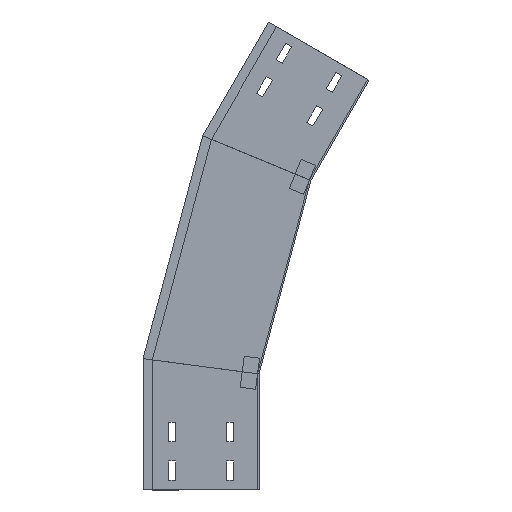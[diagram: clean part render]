
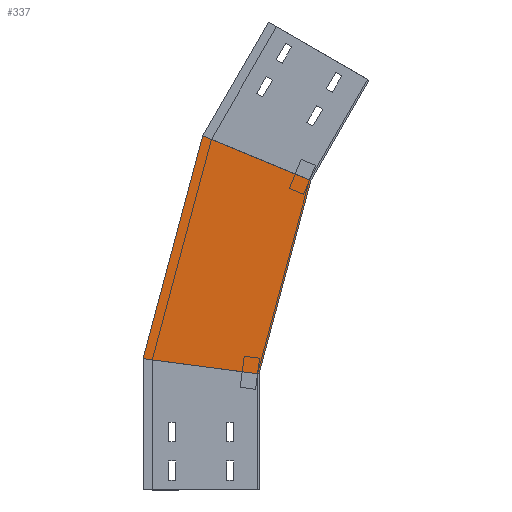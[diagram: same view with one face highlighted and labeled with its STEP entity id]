
A CAD part, left-side view. The second image highlights one B-rep face of the part: STEP entity #337.
In plain terms, the highlighted planar face has unit normal (-1, 0, 0) as drawn and (1, 0, 0) by its records, which use the part's own axes.
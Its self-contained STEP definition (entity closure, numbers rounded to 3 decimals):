
#45 = VERTEX_POINT ( 'NONE', #1856 ) ;
#93 = EDGE_CURVE ( 'NONE', #666, #1152, #112, .T. ) ;
#112 = LINE ( 'NONE', #1356, #185 ) ;
#129 = ORIENTED_EDGE ( 'NONE', *, *, #1824, .F. ) ;
#132 = CARTESIAN_POINT ( 'NONE',  ( 0., 5.648, 128.921 ) ) ;
#171 = ORIENTED_EDGE ( 'NONE', *, *, #93, .T. ) ;
#185 = VECTOR ( 'NONE', #268, 1000. ) ;
#268 = DIRECTION ( 'NONE',  ( 0., -0.259, 0.966 ) ) ;
#320 = LINE ( 'NONE', #1728, #874 ) ;
#337 = ADVANCED_FACE ( 'NONE', ( #1540 ), #742, .T. ) ;
#478 = EDGE_LOOP ( 'NONE', ( #171, #1739, #129, #1590 ) ) ;
#617 = CARTESIAN_POINT ( 'NONE',  ( 0., -67.034, 400.175 ) ) ;
#666 = VERTEX_POINT ( 'NONE', #1521 ) ;
#725 = VERTEX_POINT ( 'NONE', #617 ) ;
#742 = PLANE ( 'NONE',  #821 ) ;
#785 = EDGE_CURVE ( 'NONE', #666, #45, #320, .T. ) ;
#821 = AXIS2_PLACEMENT_3D ( 'NONE', #1844, #1857, #1694 ) ;
#874 = VECTOR ( 'NONE', #1738, 1000. ) ;
#914 = CARTESIAN_POINT ( 'NONE',  ( 0., 72.744, 458.073 ) ) ;
#928 = LINE ( 'NONE', #1561, #1990 ) ;
#1152 = VERTEX_POINT ( 'NONE', #914 ) ;
#1356 = CARTESIAN_POINT ( 'NONE',  ( 0., 150.537, 167.744 ) ) ;
#1374 = LINE ( 'NONE', #132, #1870 ) ;
#1417 = DIRECTION ( 'NONE',  ( 0., -0.924, -0.383 ) ) ;
#1521 = CARTESIAN_POINT ( 'NONE',  ( 0., 150., 169.748 ) ) ;
#1540 = FACE_OUTER_BOUND ( 'NONE', #478, .T. ) ;
#1561 = CARTESIAN_POINT ( 'NONE',  ( 0., -100.899, 386.148 ) ) ;
#1590 = ORIENTED_EDGE ( 'NONE', *, *, #785, .F. ) ;
#1694 = DIRECTION ( 'NONE',  ( 0., 0., -1. ) ) ;
#1728 = CARTESIAN_POINT ( 'NONE',  ( 0., -19.411, 147.444 ) ) ;
#1738 = DIRECTION ( 'NONE',  ( 0., -0.991, -0.131 ) ) ;
#1739 = ORIENTED_EDGE ( 'NONE', *, *, #1948, .T. ) ;
#1824 = EDGE_CURVE ( 'NONE', #45, #725, #1374, .T. ) ;
#1844 = CARTESIAN_POINT ( 'NONE',  ( 0., 5.648, 128.921 ) ) ;
#1856 = CARTESIAN_POINT ( 'NONE',  ( 0., 0., 150. ) ) ;
#1857 = DIRECTION ( 'NONE',  ( 1., 0., 0. ) ) ;
#1870 = VECTOR ( 'NONE', #1985, 1000. ) ;
#1948 = EDGE_CURVE ( 'NONE', #1152, #725, #928, .T. ) ;
#1985 = DIRECTION ( 'NONE',  ( 0., -0.259, 0.966 ) ) ;
#1990 = VECTOR ( 'NONE', #1417, 1000. ) ;
